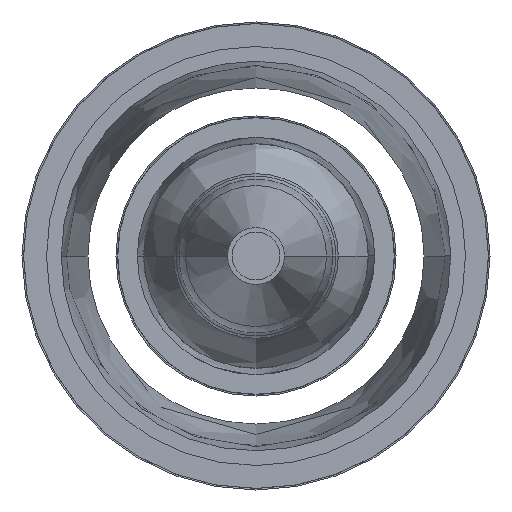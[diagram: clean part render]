
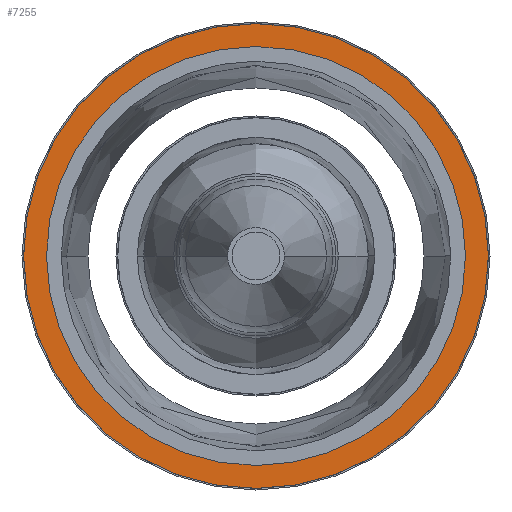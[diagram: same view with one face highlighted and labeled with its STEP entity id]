
A CAD part, left-side view. The second image highlights one B-rep face of the part: STEP entity #7255.
In plain terms, the highlighted planar face has unit normal (-1, 0, 0).
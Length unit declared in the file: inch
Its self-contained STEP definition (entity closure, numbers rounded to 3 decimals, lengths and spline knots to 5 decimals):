
#93 = ORIENTED_EDGE ( 'NONE', *, *, #1562, .F. ) ;
#243 = DIRECTION ( 'NONE',  ( 0., -0.001, -1. ) ) ;
#290 = CARTESIAN_POINT ( 'NONE',  ( -32.04609, 0.00369, 5.53289 ) ) ;
#1367 = DIRECTION ( 'NONE',  ( 1., 0., 0. ) ) ;
#1390 = CARTESIAN_POINT ( 'NONE',  ( -32.04609, -0.0041, -6.13918 ) ) ;
#1535 = VERTEX_POINT ( 'NONE', #6472 ) ;
#1562 = EDGE_CURVE ( 'NONE', #1535, #7047, #1735, .T. ) ;
#1657 = ORIENTED_EDGE ( 'NONE', *, *, #6665, .T. ) ;
#1681 = CARTESIAN_POINT ( 'NONE',  ( -32.04609, 0., 0. ) ) ;
#1735 = CIRCLE ( 'NONE', #5537, 6.13918 ) ;
#1825 = CIRCLE ( 'NONE', #6106, 6.13918 ) ;
#2287 = VERTEX_POINT ( 'NONE', #4103 ) ;
#2396 = CARTESIAN_POINT ( 'NONE',  ( -32.04609, 0., 0. ) ) ;
#2701 = EDGE_CURVE ( 'NONE', #6498, #2287, #6645, .T. ) ;
#3187 = ORIENTED_EDGE ( 'NONE', *, *, #5386, .F. ) ;
#3385 = DIRECTION ( 'NONE',  ( 0., -0.001, -1. ) ) ;
#3563 = AXIS2_PLACEMENT_3D ( 'NONE', #6332, #3910, #4671 ) ;
#3581 = EDGE_LOOP ( 'NONE', ( #3187, #93 ) ) ;
#3786 = CIRCLE ( 'NONE', #3563, 5.5329 ) ;
#3910 = DIRECTION ( 'NONE',  ( 1., 0., 0. ) ) ;
#4103 = CARTESIAN_POINT ( 'NONE',  ( -32.04609, -0.00369, -5.53289 ) ) ;
#4108 = PLANE ( 'NONE',  #6503 ) ;
#4146 = DIRECTION ( 'NONE',  ( 0., 0.001, 1. ) ) ;
#4209 = AXIS2_PLACEMENT_3D ( 'NONE', #2396, #5921, #6532 ) ;
#4671 = DIRECTION ( 'NONE',  ( 0., -0.001, -1. ) ) ;
#4675 = CARTESIAN_POINT ( 'NONE',  ( -32.04609, 5.53289, -0.00369 ) ) ;
#5168 = DIRECTION ( 'NONE',  ( 1., 0., 0. ) ) ;
#5287 = EDGE_LOOP ( 'NONE', ( #1657, #6854 ) ) ;
#5386 = EDGE_CURVE ( 'NONE', #7047, #1535, #1825, .T. ) ;
#5537 = AXIS2_PLACEMENT_3D ( 'NONE', #6622, #1367, #243 ) ;
#5797 = DIRECTION ( 'NONE',  ( -1., 0., 0. ) ) ;
#5921 = DIRECTION ( 'NONE',  ( 1., 0., 0. ) ) ;
#6106 = AXIS2_PLACEMENT_3D ( 'NONE', #1681, #5168, #3385 ) ;
#6332 = CARTESIAN_POINT ( 'NONE',  ( -32.04609, 0., 0. ) ) ;
#6472 = CARTESIAN_POINT ( 'NONE',  ( -32.04609, 0.0041, 6.13918 ) ) ;
#6498 = VERTEX_POINT ( 'NONE', #290 ) ;
#6503 = AXIS2_PLACEMENT_3D ( 'NONE', #4675, #5797, #4146 ) ;
#6532 = DIRECTION ( 'NONE',  ( 0., -0.001, -1. ) ) ;
#6622 = CARTESIAN_POINT ( 'NONE',  ( -32.04609, 0., 0. ) ) ;
#6645 = CIRCLE ( 'NONE', #4209, 5.5329 ) ;
#6665 = EDGE_CURVE ( 'NONE', #2287, #6498, #3786, .T. ) ;
#6854 = ORIENTED_EDGE ( 'NONE', *, *, #2701, .T. ) ;
#6886 = FACE_BOUND ( 'NONE', #5287, .T. ) ;
#7047 = VERTEX_POINT ( 'NONE', #1390 ) ;
#7255 = ADVANCED_FACE ( 'NONE', ( #6886, #7557 ), #4108, .T. ) ;
#7557 = FACE_OUTER_BOUND ( 'NONE', #3581, .T. ) ;
